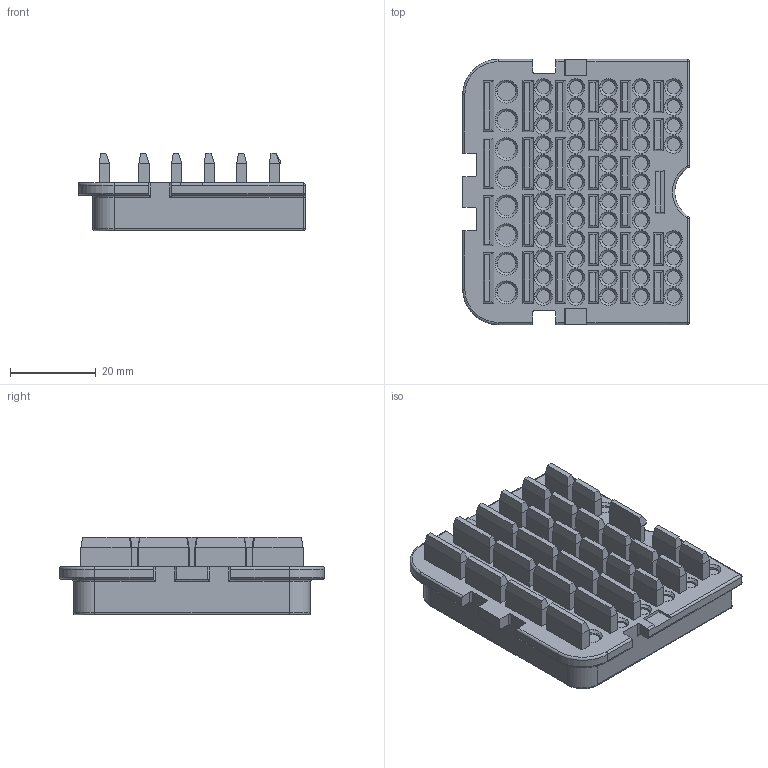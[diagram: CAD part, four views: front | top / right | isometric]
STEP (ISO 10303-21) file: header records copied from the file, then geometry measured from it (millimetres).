
FILE_DESCRIPTION((''),'2;1');
FILE_NAME('C-WB-64SB','2013-03-19T',('workeradm'),('Tyco Electronics Ltd.'),'PRO/ENGINEER BY PARAMETRIC TECHNOLOGY CORPORATION, 2010430','PRO/ENGINEER BY PARAMETRIC TECHNOLOGY CORPORATION, 2010430','');
FILE_SCHEMA(('AUTOMOTIVE_DESIGN { 1 0 10303 214 1 1 1 1 }'));
Length unit declared in the file: millimetre
Products named in the file (1): C-WB-64SB
Bounding box: 52.98 x 62 x 18.24 mm (x, y, z)
Volume: 34858.8 mm3; surface area: 13793.7 mm2
Topology: 1 solids, 1 shells, 1263 faces, 2632 edges, 1528 vertices
Faces by surface type: cylinder 561, plane 424, cone 256, torus 12, sphere 10
Entity records: 33879 total; most frequent: DIRECTION 6264, CARTESIAN_POINT 6033, ORIENTED_EDGE 5264, EDGE_CURVE 2632, AXIS2_PLACEMENT_3D 2381, VERTEX_POINT 1528, VECTOR 1502, LINE 1502
